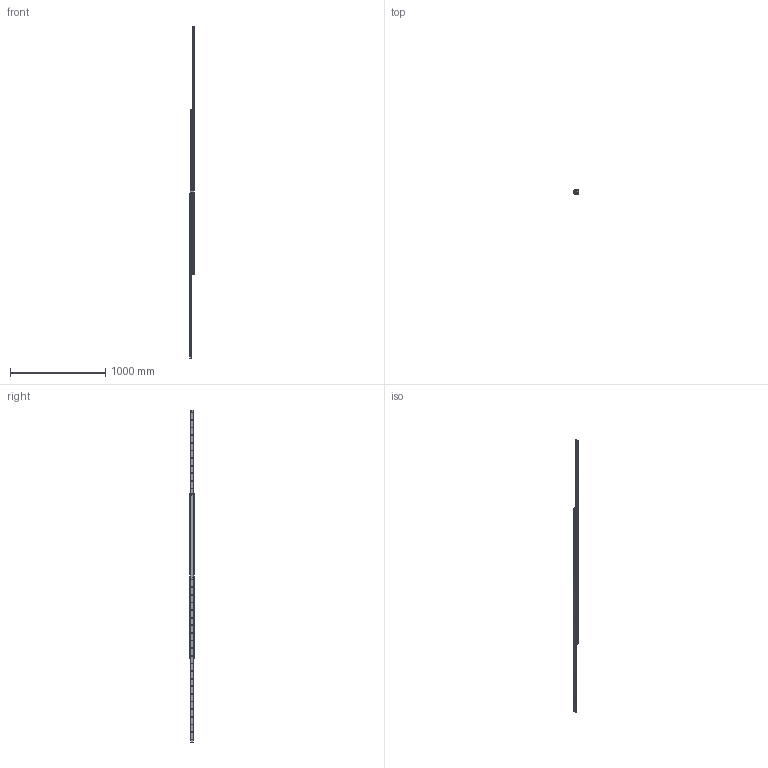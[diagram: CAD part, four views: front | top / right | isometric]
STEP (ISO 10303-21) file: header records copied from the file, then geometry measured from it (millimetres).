
FILE_DESCRIPTION( ( 'STEP AP214' ), '1' );
FILE_NAME( 'p:/temp/worker_87/temp/exporttempdir_3488_869_Si0mh/format_1/DEF43-17301756.stp', '2020-03-20T20:04:30', ( 'License CC BY-ND 4.0' ), ( 'CADENAS' ), ' ', 'PARTsolutions', ' ' );
FILE_SCHEMA( ( 'AUTOMOTIVE_DESIGN { 1 0 10303 214 1 1 1 1 }' ) );
Length unit declared in the file: millimetre
Products named in the file (4): DEF43-17301756; _43211730175612-gf; _4321173017561-ei; _43211730175611-gf
Assembly tree (4 placements, depth 2):
  DEF43-17301756
    _43211730175612-gf
    _4321173017561-ei  x2
    _43211730175611-gf
Bounding box: 44 x 43 x 3486 mm (x, y, z)
Volume: 2138236.8 mm3; surface area: 814121.4 mm2
Topology: 4 solids, 4 shells, 284 faces, 700 edges, 436 vertices
Faces by surface type: plane 102, cone 92, cylinder 90
Full cylindrical faces by diameter (mm): 4.134 x2, 6.647 x44, 7 x2
Entity records: 8356 total; most frequent: DIRECTION 1164, CARTESIAN_POINT 1033, ORIENTED_EDGE 878, AXIS2_PLACEMENT_3D 484, EDGE_LOOP 468, EDGE_CURVE 439, VERTEX_POINT 353, FACE_OUTER_BOUND 282
